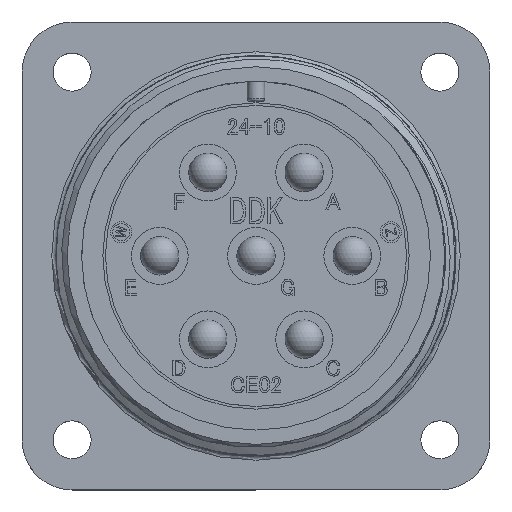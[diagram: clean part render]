
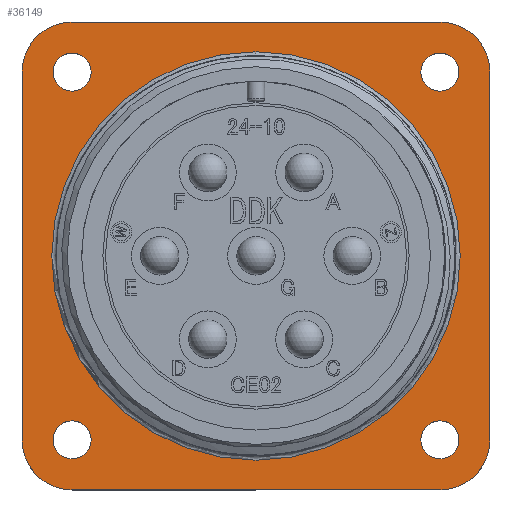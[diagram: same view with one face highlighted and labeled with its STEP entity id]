
A CAD part, top view. The second image highlights one B-rep face of the part: STEP entity #36149.
In plain terms, the highlighted planar face has unit normal (0, 0, 1).
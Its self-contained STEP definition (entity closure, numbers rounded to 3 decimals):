
#646 = DIRECTION ( 'NONE',  ( 0., -1., 0. ) ) ;
#769 = CARTESIAN_POINT ( 'NONE',  ( -22.225, 17.465, -20.8 ) ) ;
#788 = CARTESIAN_POINT ( 'NONE',  ( 22.225, -17.465, -20.8 ) ) ;
#826 = EDGE_CURVE ( 'NONE', #11672, #11672, #15522, .T. ) ;
#2913 = EDGE_LOOP ( 'NONE', ( #32239 ) ) ;
#3014 = ORIENTED_EDGE ( 'NONE', *, *, #26769, .T. ) ;
#3015 = ORIENTED_EDGE ( 'NONE', *, *, #36134, .T. ) ;
#3110 = DIRECTION ( 'NONE',  ( -1., 0., 0. ) ) ;
#3161 = FACE_BOUND ( 'NONE', #28920, .T. ) ;
#3576 = LINE ( 'NONE', #31903, #22619 ) ;
#3854 = DIRECTION ( 'NONE',  ( 0., 0., 1. ) ) ;
#4042 = DIRECTION ( 'NONE',  ( 0., 0., 1. ) ) ;
#4145 = DIRECTION ( 'NONE',  ( 0., 0., 1. ) ) ;
#4336 = ORIENTED_EDGE ( 'NONE', *, *, #25103, .T. ) ;
#6328 = ORIENTED_EDGE ( 'NONE', *, *, #35237, .T. ) ;
#6515 = DIRECTION ( 'NONE',  ( -1., 0., 0. ) ) ;
#6524 = CIRCLE ( 'NONE', #9101, 4.76 ) ;
#6668 = EDGE_LOOP ( 'NONE', ( #6328 ) ) ;
#7031 = LINE ( 'NONE', #769, #29258 ) ;
#7035 = AXIS2_PLACEMENT_3D ( 'NONE', #34822, #18545, #6515 ) ;
#7067 = CARTESIAN_POINT ( 'NONE',  ( 17.465, -22.225, -20.8 ) ) ;
#7110 = EDGE_CURVE ( 'NONE', #29603, #14810, #17090, .T. ) ;
#7187 = AXIS2_PLACEMENT_3D ( 'NONE', #27488, #4042, #13019 ) ;
#7502 = DIRECTION ( 'NONE',  ( 0., 0., 1. ) ) ;
#7708 = CARTESIAN_POINT ( 'NONE',  ( 19.27, 17.465, -20.8 ) ) ;
#8139 = ORIENTED_EDGE ( 'NONE', *, *, #22000, .T. ) ;
#8361 = EDGE_CURVE ( 'NONE', #37214, #37202, #28884, .T. ) ;
#9041 = CIRCLE ( 'NONE', #34512, 1.805 ) ;
#9101 = AXIS2_PLACEMENT_3D ( 'NONE', #13447, #7502, #10540 ) ;
#9213 = DIRECTION ( 'NONE',  ( 0., 0., 1. ) ) ;
#9279 = CIRCLE ( 'NONE', #15126, 1.805 ) ;
#9498 = AXIS2_PLACEMENT_3D ( 'NONE', #22142, #27762, #25059 ) ;
#9764 = EDGE_CURVE ( 'NONE', #32528, #32528, #9279, .T. ) ;
#9881 = AXIS2_PLACEMENT_3D ( 'NONE', #27319, #4145, #24389 ) ;
#10201 = ORIENTED_EDGE ( 'NONE', *, *, #7110, .T. ) ;
#10540 = DIRECTION ( 'NONE',  ( 1., 0., 0. ) ) ;
#10616 = DIRECTION ( 'NONE',  ( 0., 0., 1. ) ) ;
#10956 = CARTESIAN_POINT ( 'NONE',  ( -22.225, -17.465, -20.8 ) ) ;
#11600 = PLANE ( 'NONE',  #7035 ) ;
#11672 = VERTEX_POINT ( 'NONE', #33317 ) ;
#11692 = DIRECTION ( 'NONE',  ( 0., 0., -1. ) ) ;
#12170 = FACE_BOUND ( 'NONE', #6668, .T. ) ;
#12491 = VERTEX_POINT ( 'NONE', #7067 ) ;
#12762 = CARTESIAN_POINT ( 'NONE',  ( -22.225, 17.465, -20.8 ) ) ;
#12938 = CARTESIAN_POINT ( 'NONE',  ( -17.465, 22.225, -20.8 ) ) ;
#13019 = DIRECTION ( 'NONE',  ( 1., 0., 0. ) ) ;
#13306 = CARTESIAN_POINT ( 'NONE',  ( -17.465, 22.225, -20.8 ) ) ;
#13447 = CARTESIAN_POINT ( 'NONE',  ( 17.465, -17.465, -20.8 ) ) ;
#13548 = FACE_BOUND ( 'NONE', #29104, .T. ) ;
#13651 = DIRECTION ( 'NONE',  ( 1., 0., 0. ) ) ;
#13831 = VERTEX_POINT ( 'NONE', #788 ) ;
#13893 = EDGE_CURVE ( 'NONE', #21618, #21618, #37259, .T. ) ;
#14093 = CARTESIAN_POINT ( 'NONE',  ( 22.225, 17.465, -20.8 ) ) ;
#14768 = DIRECTION ( 'NONE',  ( 1., 0., 0. ) ) ;
#14810 = VERTEX_POINT ( 'NONE', #12762 ) ;
#15126 = AXIS2_PLACEMENT_3D ( 'NONE', #28146, #10616, #13651 ) ;
#15205 = DIRECTION ( 'NONE',  ( -1., 0., 0. ) ) ;
#15522 = CIRCLE ( 'NONE', #9881, 1.805 ) ;
#16180 = ORIENTED_EDGE ( 'NONE', *, *, #13893, .F. ) ;
#17090 = CIRCLE ( 'NONE', #22387, 4.76 ) ;
#17206 = ORIENTED_EDGE ( 'NONE', *, *, #25532, .T. ) ;
#17405 = CARTESIAN_POINT ( 'NONE',  ( 22.225, 17.465, -20.8 ) ) ;
#17407 = CARTESIAN_POINT ( 'NONE',  ( 0., 0., -20.8 ) ) ;
#17737 = CARTESIAN_POINT ( 'NONE',  ( -17.465, -22.225, -20.8 ) ) ;
#18545 = DIRECTION ( 'NONE',  ( 0., 0., -1. ) ) ;
#19035 = DIRECTION ( 'NONE',  ( -1., 0., 0. ) ) ;
#19462 = FACE_BOUND ( 'NONE', #2913, .T. ) ;
#20007 = CARTESIAN_POINT ( 'NONE',  ( -19.27, 17.465, -20.8 ) ) ;
#20673 = LINE ( 'NONE', #13306, #27479 ) ;
#20803 = FACE_BOUND ( 'NONE', #25517, .T. ) ;
#21192 = CARTESIAN_POINT ( 'NONE',  ( -17.465, -17.465, -20.8 ) ) ;
#21618 = VERTEX_POINT ( 'NONE', #31033 ) ;
#22000 = EDGE_CURVE ( 'NONE', #13831, #37214, #33077, .T. ) ;
#22049 = VERTEX_POINT ( 'NONE', #25690 ) ;
#22142 = CARTESIAN_POINT ( 'NONE',  ( 17.465, 17.465, -20.8 ) ) ;
#22387 = AXIS2_PLACEMENT_3D ( 'NONE', #26614, #32957, #15205 ) ;
#22619 = VECTOR ( 'NONE', #14768, 1000. ) ;
#23108 = VECTOR ( 'NONE', #34781, 1000. ) ;
#23780 = DIRECTION ( 'NONE',  ( -1., 0., 0. ) ) ;
#24389 = DIRECTION ( 'NONE',  ( -1., 0., 0. ) ) ;
#24626 = AXIS2_PLACEMENT_3D ( 'NONE', #21192, #3854, #30074 ) ;
#25059 = DIRECTION ( 'NONE',  ( -1., 0., 0. ) ) ;
#25103 = EDGE_CURVE ( 'NONE', #37202, #29603, #20673, .T. ) ;
#25348 = VERTEX_POINT ( 'NONE', #17737 ) ;
#25517 = EDGE_LOOP ( 'NONE', ( #16180 ) ) ;
#25532 = EDGE_CURVE ( 'NONE', #14810, #26390, #7031, .T. ) ;
#25690 = CARTESIAN_POINT ( 'NONE',  ( -19.4, 0., -20.8 ) ) ;
#26390 = VERTEX_POINT ( 'NONE', #10956 ) ;
#26492 = CIRCLE ( 'NONE', #24626, 4.76 ) ;
#26614 = CARTESIAN_POINT ( 'NONE',  ( -17.465, 17.465, -20.8 ) ) ;
#26764 = CIRCLE ( 'NONE', #28680, 19.4 ) ;
#26769 = EDGE_CURVE ( 'NONE', #26390, #25348, #26492, .T. ) ;
#26894 = EDGE_CURVE ( 'NONE', #12491, #13831, #6524, .T. ) ;
#27319 = CARTESIAN_POINT ( 'NONE',  ( 17.465, -17.465, -20.8 ) ) ;
#27479 = VECTOR ( 'NONE', #19035, 1000. ) ;
#27488 = CARTESIAN_POINT ( 'NONE',  ( -17.465, -17.465, -20.8 ) ) ;
#27533 = ORIENTED_EDGE ( 'NONE', *, *, #26894, .T. ) ;
#27762 = DIRECTION ( 'NONE',  ( 0., 0., 1. ) ) ;
#28146 = CARTESIAN_POINT ( 'NONE',  ( 17.465, 17.465, -20.8 ) ) ;
#28680 = AXIS2_PLACEMENT_3D ( 'NONE', #17407, #11692, #3110 ) ;
#28884 = CIRCLE ( 'NONE', #9498, 4.76 ) ;
#28920 = EDGE_LOOP ( 'NONE', ( #29108 ) ) ;
#29104 = EDGE_LOOP ( 'NONE', ( #31001 ) ) ;
#29108 = ORIENTED_EDGE ( 'NONE', *, *, #34424, .F. ) ;
#29258 = VECTOR ( 'NONE', #646, 1000. ) ;
#29330 = VERTEX_POINT ( 'NONE', #20007 ) ;
#29603 = VERTEX_POINT ( 'NONE', #12938 ) ;
#30074 = DIRECTION ( 'NONE',  ( -1., 0., 0. ) ) ;
#30333 = FACE_OUTER_BOUND ( 'NONE', #32172, .T. ) ;
#31001 = ORIENTED_EDGE ( 'NONE', *, *, #9764, .F. ) ;
#31033 = CARTESIAN_POINT ( 'NONE',  ( -15.66, -17.465, -20.8 ) ) ;
#31341 = CARTESIAN_POINT ( 'NONE',  ( 17.465, 22.225, -20.8 ) ) ;
#31903 = CARTESIAN_POINT ( 'NONE',  ( -17.465, -22.225, -20.8 ) ) ;
#32172 = EDGE_LOOP ( 'NONE', ( #10201, #17206, #3014, #3015, #27533, #8139, #35967, #4336 ) ) ;
#32239 = ORIENTED_EDGE ( 'NONE', *, *, #826, .F. ) ;
#32528 = VERTEX_POINT ( 'NONE', #7708 ) ;
#32957 = DIRECTION ( 'NONE',  ( 0., 0., 1. ) ) ;
#33077 = LINE ( 'NONE', #17405, #23108 ) ;
#33317 = CARTESIAN_POINT ( 'NONE',  ( 15.66, -17.465, -20.8 ) ) ;
#34424 = EDGE_CURVE ( 'NONE', #29330, #29330, #9041, .T. ) ;
#34512 = AXIS2_PLACEMENT_3D ( 'NONE', #35235, #9213, #23780 ) ;
#34781 = DIRECTION ( 'NONE',  ( 0., 1., 0. ) ) ;
#34822 = CARTESIAN_POINT ( 'NONE',  ( -17.465, 17.465, -20.8 ) ) ;
#35235 = CARTESIAN_POINT ( 'NONE',  ( -17.465, 17.465, -20.8 ) ) ;
#35237 = EDGE_CURVE ( 'NONE', #22049, #22049, #26764, .T. ) ;
#35967 = ORIENTED_EDGE ( 'NONE', *, *, #8361, .T. ) ;
#36134 = EDGE_CURVE ( 'NONE', #25348, #12491, #3576, .T. ) ;
#36149 = ADVANCED_FACE ( 'NONE', ( #12170, #3161, #20803, #19462, #13548, #30333 ), #11600, .F. ) ;
#37202 = VERTEX_POINT ( 'NONE', #31341 ) ;
#37214 = VERTEX_POINT ( 'NONE', #14093 ) ;
#37259 = CIRCLE ( 'NONE', #7187, 1.805 ) ;
